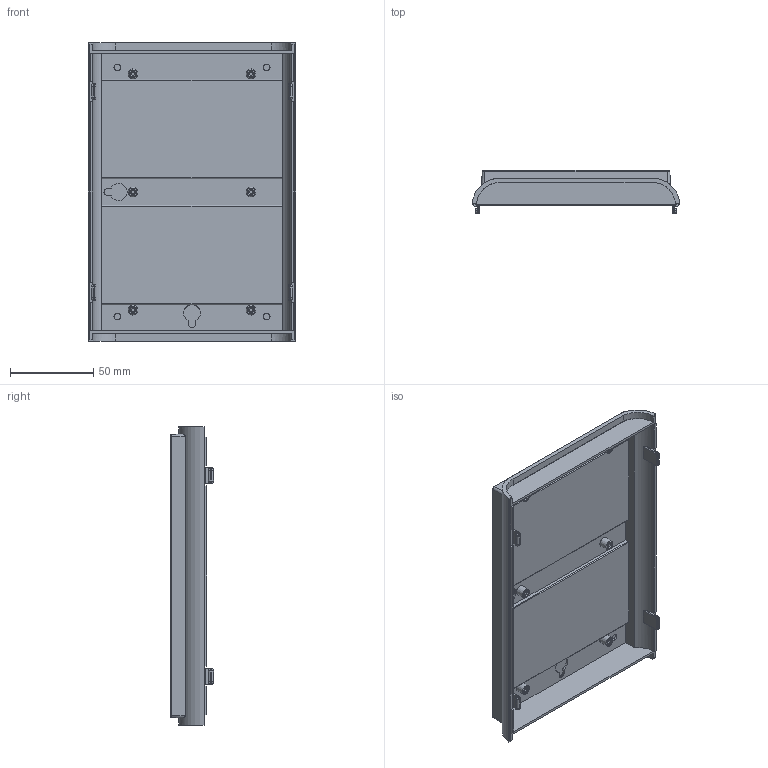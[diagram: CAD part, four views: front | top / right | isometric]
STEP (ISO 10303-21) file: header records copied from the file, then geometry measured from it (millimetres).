
FILE_DESCRIPTION((''),'2;1');
FILE_NAME('E:\Eng\Customer Service\Drawings\1597\STEP\1597D Box.stp','2010-11-01T15:47:50',('tcook'),(''),'Autodesk Inventor 2011','Autodesk Inventor 2011','');
FILE_SCHEMA(('AUTOMOTIVE_DESIGN { 1 0 10303 214 1 1 1 1 }'));
Length unit declared in the file: inch
Products named in the file (1): 1597D Box
Bounding box: 124.92 x 25.91 x 179.58 mm (x, y, z)
Volume: 69959.8 mm3; surface area: 68435.4 mm2
Topology: 1 solids, 1 shells, 333 faces, 814 edges, 506 vertices
Faces by surface type: plane 169, cylinder 111, bspline 24, torus 17, cone 12
Full cylindrical faces by diameter (mm): 2.388 x6, 4.064 x4
Entity records: 10495 total; most frequent: CARTESIAN_POINT 2621, DIRECTION 1689, ORIENTED_EDGE 1574, EDGE_CURVE 787, AXIS2_PLACEMENT_3D 604, VERTEX_POINT 506, VECTOR 481, LINE 481
